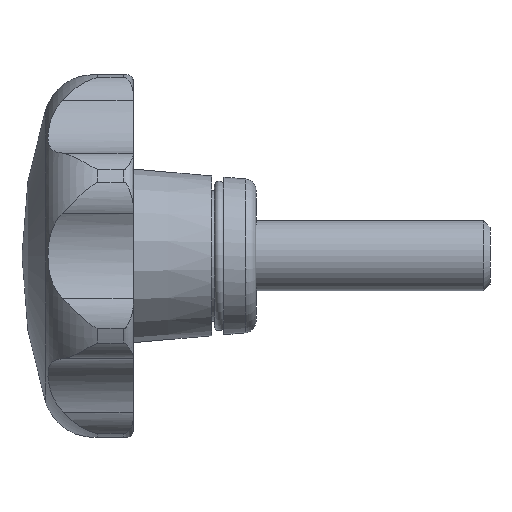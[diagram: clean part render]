
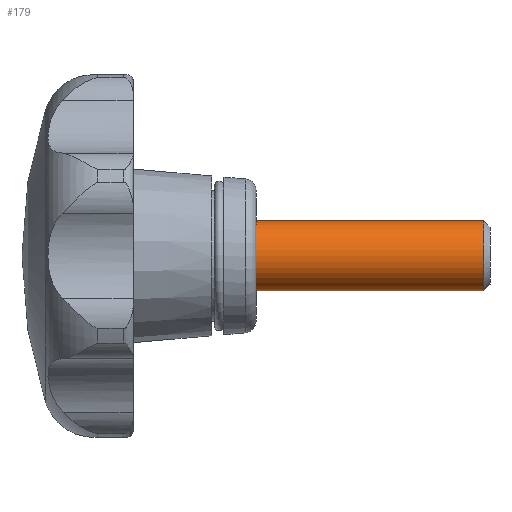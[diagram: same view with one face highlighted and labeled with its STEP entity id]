
A CAD part, left-side view. The second image highlights one B-rep face of the part: STEP entity #179.
In plain terms, the highlighted cylindrical face has radius 6 mm (diameter 12 mm), a full revolution.
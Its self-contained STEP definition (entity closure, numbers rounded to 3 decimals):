
#179 = ADVANCED_FACE( '', ( #341, #342 ), #343, .T. );
#341 = FACE_OUTER_BOUND( '', #679, .T. );
#342 = FACE_OUTER_BOUND( '', #680, .T. );
#343 = CYLINDRICAL_SURFACE( '', #681, 6. );
#679 = EDGE_LOOP( '', ( #1050 ) );
#680 = EDGE_LOOP( '', ( #1051 ) );
#681 = AXIS2_PLACEMENT_3D( '', #1052, #1053, #1054 );
#1050 = ORIENTED_EDGE( '', *, *, #2085, .F. );
#1051 = ORIENTED_EDGE( '', *, *, #2086, .T. );
#1052 = CARTESIAN_POINT( '', ( 0., -40., 0. ) );
#1053 = DIRECTION( '', ( 0., 1., 0. ) );
#1054 = DIRECTION( '', ( 0., 0., -1. ) );
#2085 = EDGE_CURVE( '', #2434, #2434, #2435, .T. );
#2086 = EDGE_CURVE( '', #2436, #2436, #2437, .T. );
#2434 = VERTEX_POINT( '', #3040 );
#2435 = CIRCLE( '', #3041, 6. );
#2436 = VERTEX_POINT( '', #3042 );
#2437 = CIRCLE( '', #3043, 6. );
#3040 = CARTESIAN_POINT( '', ( 0., -38.927, -6. ) );
#3041 = AXIS2_PLACEMENT_3D( '', #4772, #4773, #4774 );
#3042 = CARTESIAN_POINT( '', ( 0., 0., -6. ) );
#3043 = AXIS2_PLACEMENT_3D( '', #4775, #4776, #4777 );
#4772 = CARTESIAN_POINT( '', ( 0., -38.927, 0. ) );
#4773 = DIRECTION( '', ( 0., -1., 0. ) );
#4774 = DIRECTION( '', ( 0., 0., -1. ) );
#4775 = CARTESIAN_POINT( '', ( 0., 0., 0. ) );
#4776 = DIRECTION( '', ( 0., -1., 0. ) );
#4777 = DIRECTION( '', ( 0., 0., -1. ) );
